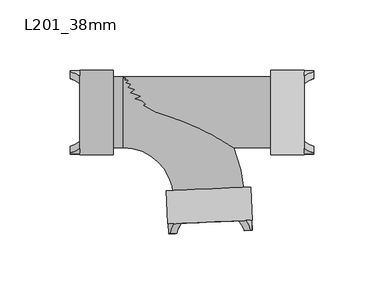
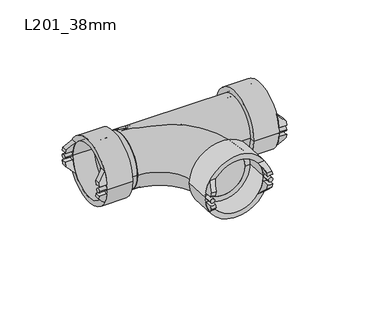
"""IFC4 building model written with IfcOpenShell, lengths in millimetres: pipe fitting geometry, Durapipe_PipeFitting_VulcatheneEnfusion_EqualSweepTee_L20 : L201_38mm."""

from ifc_helpers import new_model, si_unit, point, frame, frame_2d, origin, place, context, project, spatial, polyline, circle_curve, ellipse_curve, trimmed, segment, composite_curve, outline, extrude, source, transform, mapped, element, save
from ifc_brep_helpers import plane_surface, cylinder_surface, revolved_surface, advanced_brep


def l201_38mm_3360234d(model_context):
    return source(origin(), model_context, "Body", "SolidModel", [
        advanced_brep(
        [(-96.4947963, 25.0948649, -4.2367744), (-96.4947963, 29.6948649, -4.6062458), (-96.4947963, 28.9820444, -7.94), (-96.4947963, 24.1797208, -7.94), (-89.3947963, 26.0384811, -15.0), (-89.3947963, 29.6948649, -4.6062458), (-89.3947963, 25.0948649, -4.2367744), (-89.3947963, 20.5597301, -15.0)],
        [
            (0, 1, circle_curve(frame((-96.4947963, 27.75, 0.0), z_axis=(1.0, 0.0, 0.0), x_axis=(0.0, -1.0, 0.0)), 5.0)),
            (1, 2, circle_curve(frame((-96.4947963, 0.0, 0.0), z_axis=(-1.0, 0.0, 0.0), x_axis=(0.0, -1.0, 0.0)), 30.05)),
            (2, 3),
            (3, 0, circle_curve(frame((-96.4947963, 0.0, 0.0), z_axis=(1.0, 0.0, 0.0), x_axis=(0.0, -1.0, 0.0)), 25.45)),
            (4, 5, circle_curve(frame((-89.3947963, 0.0, 0.0), z_axis=(1.0, 0.0, 0.0), x_axis=(0.0, -1.0, 0.0)), 30.05)),
            (5, 6, circle_curve(frame((-89.3947963, 27.75, 0.0), z_axis=(-1.0, 0.0, 0.0), x_axis=(0.0, -1.0, 0.0)), 5.0)),
            (6, 7, circle_curve(frame((-89.3947963, 0.0, 0.0), z_axis=(-1.0, 0.0, 0.0), x_axis=(0.0, -1.0, 0.0)), 25.45)),
            (7, 4),
            (6, 0),
            (3, 7, ellipse_curve(frame((-104.4797821, 0.0, 0.0), z_axis=(-0.705106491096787, 0.0, -0.7091014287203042), x_axis=(0.7091014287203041, 0.0, -0.705106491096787)), 36.0938388, 25.45)),
            (4, 2, ellipse_curve(frame((-104.4797821, 0.0, 0.0), z_axis=(0.705106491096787, 0.0, 0.7091014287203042), x_axis=(-0.7091014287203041, 0.0, 0.705106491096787)), 42.617676, 30.05)),
            (1, 5),
        ],
        [
            plane_surface(frame((-96.4947963, 26.0384811, -15.0), z_axis=(-1.0, 0.0, 0.0), x_axis=(0.0, -1.0, 0.0))),
            plane_surface(frame((-89.3947963, 26.0384811, -15.0), z_axis=(1.0, 0.0, 0.0), x_axis=(0.0, 1.0, 0.0))),
            revolved_surface(polyline([(-78.88558943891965, -25.45, 0.0), (-130.07397476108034, -25.45, 0.0)]), (-89.3947963, 0.0, 0.0), (1.0, 0.0, 0.0)),
            cylinder_surface(frame((-89.3947963, 0.0, 0.0), z_axis=(-1.0, 0.0, 0.0), x_axis=(0.0, -1.0, 0.0)), 30.05),
            revolved_surface(polyline([(-96.4947963, 22.75, 0.0), (-89.3947963, 22.75, 0.0)]), (-89.3947963, 27.75, 0.0), (-1.0, 0.0, 0.0)),
            plane_surface(frame((-89.3947963, -30.05, -15.0), z_axis=(-0.705106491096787, 0.0, -0.7091014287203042), x_axis=(0.0, 1.0, 0.0))),
        ],
        [
            (0, [[1, 2, 3, 4]]),
            (1, [[5, 6, 7, 8]]),
            (2, [[-7, 9, -4, 10]]),
            (3, [[-5, 11, -2, 12]]),
            (4, [[-1, -9, -6, -12]]),
            (5, [[-3, -11, -8, -10]]),
        ],
    ),
        advanced_brep(
        [(-96.4947963, 29.6948649, 4.6062458), (-96.4947963, 25.0948649, 4.2367744), (-96.4947963, 24.1797208, 7.94), (-96.4947963, 28.9820444, 7.94), (-89.3947963, 29.6948649, 4.6062458), (-89.3947963, 26.0384811, 15.0), (-89.3947963, 20.5597301, 15.0), (-89.3947963, 25.0948649, 4.2367744)],
        [
            (0, 1, circle_curve(frame((-96.4947963, 27.75, 0.0), z_axis=(1.0, 0.0, 0.0), x_axis=(0.0, -1.0, 0.0)), 5.0)),
            (1, 2, circle_curve(frame((-96.4947963, 0.0, 0.0), z_axis=(1.0, 0.0, 0.0), x_axis=(0.0, -1.0, 0.0)), 25.45)),
            (2, 3),
            (3, 0, circle_curve(frame((-96.4947963, 0.0, 0.0), z_axis=(-1.0, 0.0, 0.0), x_axis=(0.0, -1.0, 0.0)), 30.05)),
            (4, 5, circle_curve(frame((-89.3947963, 0.0, 0.0), z_axis=(1.0, 0.0, 0.0), x_axis=(0.0, -1.0, 0.0)), 30.05)),
            (5, 6),
            (6, 7, circle_curve(frame((-89.3947963, 0.0, 0.0), z_axis=(-1.0, 0.0, 0.0), x_axis=(0.0, -1.0, 0.0)), 25.45)),
            (7, 4, circle_curve(frame((-89.3947963, 27.75, 0.0), z_axis=(-1.0, 0.0, 0.0), x_axis=(0.0, -1.0, 0.0)), 5.0)),
            (6, 2, ellipse_curve(frame((-104.4797821, 0.0, 0.0), z_axis=(-0.7051064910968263, 0.0, 0.7091014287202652), x_axis=(0.7091014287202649, 0.0, 0.7051064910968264)), 36.0938388, 25.45)),
            (1, 7),
            (4, 0),
            (3, 5, ellipse_curve(frame((-104.4797821, 0.0, 0.0), z_axis=(0.7051064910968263, 0.0, -0.7091014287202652), x_axis=(-0.7091014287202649, 0.0, -0.7051064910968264)), 42.617676, 30.05)),
        ],
        [
            plane_surface(frame((-96.4947963, 26.0384811, -15.0), z_axis=(-1.0, 0.0, 0.0), x_axis=(0.0, -1.0, 0.0))),
            plane_surface(frame((-89.3947963, 26.0384811, -15.0), z_axis=(1.0, 0.0, 0.0), x_axis=(0.0, 1.0, 0.0))),
            revolved_surface(polyline([(-78.88558943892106, -25.45, 0.0), (-130.07397476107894, -25.45, 0.0)]), (-89.3947963, 0.0, 0.0), (1.0, 0.0, 0.0)),
            cylinder_surface(frame((-89.3947963, 0.0, 0.0), z_axis=(-1.0, 0.0, 0.0), x_axis=(0.0, -1.0, 0.0)), 30.05),
            revolved_surface(polyline([(-96.4947963, 22.75, 0.0), (-89.3947963, 22.75, 0.0)]), (-89.3947963, 27.75, 0.0), (-1.0, 0.0, 0.0)),
            plane_surface(frame((-96.4947963, -30.05, 7.94), z_axis=(-0.7051064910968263, 0.0, 0.7091014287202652), x_axis=(0.0, 1.0, 0.0))),
        ],
        [
            (0, [[1, 2, 3, 4]]),
            (1, [[5, 6, 7, 8]]),
            (2, [[-7, 9, -2, 10]]),
            (3, [[-5, 11, -4, 12]]),
            (4, [[-1, -11, -8, -10]]),
            (5, [[-3, -9, -6, -12]]),
        ],
    ),
        advanced_brep(
        [(-96.4947963, -29.6948649, -4.6062458), (-96.4947963, -25.0948649, -4.2367744), (-96.4947963, -24.1797208, -7.94), (-96.4947963, -28.9820444, -7.94), (-89.3947963, -29.6948649, -4.6062458), (-89.3947963, -26.0384811, -15.0), (-89.3947963, -20.5597301, -15.0), (-89.3947963, -25.0948649, -4.2367744)],
        [
            (0, 1, circle_curve(frame((-96.4947963, -27.75, 0.0), z_axis=(1.0, 0.0, 0.0), x_axis=(0.0, -1.0, 0.0)), 5.0)),
            (1, 2, circle_curve(frame((-96.4947963, 0.0, 0.0), z_axis=(1.0, 0.0, 0.0), x_axis=(0.0, -1.0, 0.0)), 25.45)),
            (2, 3),
            (3, 0, circle_curve(frame((-96.4947963, 0.0, 0.0), z_axis=(-1.0, 0.0, 0.0), x_axis=(0.0, -1.0, 0.0)), 30.05)),
            (4, 5, circle_curve(frame((-89.3947963, 0.0, 0.0), z_axis=(1.0, 0.0, 0.0), x_axis=(0.0, -1.0, 0.0)), 30.05)),
            (5, 6),
            (6, 7, circle_curve(frame((-89.3947963, 0.0, 0.0), z_axis=(-1.0, 0.0, 0.0), x_axis=(0.0, -1.0, 0.0)), 25.45)),
            (7, 4, circle_curve(frame((-89.3947963, -27.75, 0.0), z_axis=(-1.0, 0.0, 0.0), x_axis=(0.0, -1.0, 0.0)), 5.0)),
            (6, 2, ellipse_curve(frame((-104.4797821, 0.0, 0.0), z_axis=(-0.705106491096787, 0.0, -0.7091014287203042), x_axis=(0.7091014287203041, 0.0, -0.705106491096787)), 36.0938388, 25.45)),
            (1, 7),
            (4, 0),
            (3, 5, ellipse_curve(frame((-104.4797821, 0.0, 0.0), z_axis=(0.705106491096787, 0.0, 0.7091014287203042), x_axis=(-0.7091014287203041, 0.0, 0.705106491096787)), 42.617676, 30.05)),
        ],
        [
            plane_surface(frame((-96.4947963, 26.0384811, -15.0), z_axis=(-1.0, 0.0, 0.0), x_axis=(0.0, -1.0, 0.0))),
            plane_surface(frame((-89.3947963, 26.0384811, -15.0), z_axis=(1.0, 0.0, 0.0), x_axis=(0.0, 1.0, 0.0))),
            revolved_surface(polyline([(-78.88558943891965, -25.45, 0.0), (-130.07397476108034, -25.45, 0.0)]), (-89.3947963, 0.0, 0.0), (1.0, 0.0, 0.0)),
            cylinder_surface(frame((-89.3947963, 0.0, 0.0), z_axis=(-1.0, 0.0, 0.0), x_axis=(0.0, -1.0, 0.0)), 30.05),
            revolved_surface(polyline([(-96.4947963, -32.75, 0.0), (-89.3947963, -32.75, 0.0)]), (-89.3947963, -27.75, 0.0), (-1.0, 0.0, 0.0)),
            plane_surface(frame((-89.3947963, -30.05, -15.0), z_axis=(-0.705106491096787, 0.0, -0.7091014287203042), x_axis=(0.0, 1.0, 0.0))),
        ],
        [
            (0, [[1, 2, 3, 4]]),
            (1, [[5, 6, 7, 8]]),
            (2, [[-7, 9, -2, 10]]),
            (3, [[-5, 11, -4, 12]]),
            (4, [[-1, -11, -8, -10]]),
            (5, [[-3, -9, -6, -12]]),
        ],
    ),
        advanced_brep(
        [(-96.4947963, -25.0948649, 4.2367744), (-96.4947963, -29.6948649, 4.6062458), (-96.4947963, -28.9820444, 7.94), (-96.4947963, -24.1797208, 7.94), (-89.3947963, -26.0384811, 15.0), (-89.3947963, -29.6948649, 4.6062458), (-89.3947963, -25.0948649, 4.2367744), (-89.3947963, -20.5597301, 15.0)],
        [
            (0, 1, circle_curve(frame((-96.4947963, -27.75, 0.0), z_axis=(1.0, 0.0, 0.0), x_axis=(0.0, -1.0, 0.0)), 5.0)),
            (1, 2, circle_curve(frame((-96.4947963, 0.0, 0.0), z_axis=(-1.0, 0.0, 0.0), x_axis=(0.0, -1.0, 0.0)), 30.05)),
            (2, 3),
            (3, 0, circle_curve(frame((-96.4947963, 0.0, 0.0), z_axis=(1.0, 0.0, 0.0), x_axis=(0.0, -1.0, 0.0)), 25.45)),
            (4, 5, circle_curve(frame((-89.3947963, 0.0, 0.0), z_axis=(1.0, 0.0, 0.0), x_axis=(0.0, -1.0, 0.0)), 30.05)),
            (5, 6, circle_curve(frame((-89.3947963, -27.75, 0.0), z_axis=(-1.0, 0.0, 0.0), x_axis=(0.0, -1.0, 0.0)), 5.0)),
            (6, 7, circle_curve(frame((-89.3947963, 0.0, 0.0), z_axis=(-1.0, 0.0, 0.0), x_axis=(0.0, -1.0, 0.0)), 25.45)),
            (7, 4),
            (6, 0),
            (3, 7, ellipse_curve(frame((-104.4797821, 0.0, 0.0), z_axis=(-0.7051064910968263, 0.0, 0.7091014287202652), x_axis=(0.7091014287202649, 0.0, 0.7051064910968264)), 36.0938388, 25.45)),
            (4, 2, ellipse_curve(frame((-104.4797821, 0.0, 0.0), z_axis=(0.7051064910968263, 0.0, -0.7091014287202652), x_axis=(-0.7091014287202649, 0.0, -0.7051064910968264)), 42.617676, 30.05)),
            (1, 5),
        ],
        [
            plane_surface(frame((-96.4947963, 26.0384811, -15.0), z_axis=(-1.0, 0.0, 0.0), x_axis=(0.0, -1.0, 0.0))),
            plane_surface(frame((-89.3947963, 26.0384811, -15.0), z_axis=(1.0, 0.0, 0.0), x_axis=(0.0, 1.0, 0.0))),
            revolved_surface(polyline([(-78.88558943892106, -25.45, 0.0), (-130.07397476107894, -25.45, 0.0)]), (-89.3947963, 0.0, 0.0), (1.0, 0.0, 0.0)),
            cylinder_surface(frame((-89.3947963, 0.0, 0.0), z_axis=(-1.0, 0.0, 0.0), x_axis=(0.0, -1.0, 0.0)), 30.05),
            revolved_surface(polyline([(-96.4947963, -32.75, 0.0), (-89.3947963, -32.75, 0.0)]), (-89.3947963, -27.75, 0.0), (-1.0, 0.0, 0.0)),
            plane_surface(frame((-96.4947963, -30.05, 7.94), z_axis=(-0.7051064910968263, 0.0, 0.7091014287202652), x_axis=(0.0, 1.0, 0.0))),
        ],
        [
            (0, [[1, 2, 3, 4]]),
            (1, [[5, 6, 7, 8]]),
            (2, [[-7, 9, -4, 10]]),
            (3, [[-5, 11, -2, 12]]),
            (4, [[-1, -9, -6, -12]]),
            (5, [[-3, -11, -8, -10]]),
        ],
    ),
        extrude(outline(composite_curve([segment(trimmed(circle_curve(frame_2d((27.75, 0.0)), 2.0), [point((29.75, 0.0))], [point((25.75, 0.0))], False, "CARTESIAN"), True, "CONTINUOUS"), segment(trimmed(circle_curve(frame_2d((27.75, 0.0)), 2.0), [point((25.75, 0.0))], [point((29.75, 0.0))], False, "CARTESIAN"), True, "CONTINUOUS")], self_intersect=False)), frame((-96.4947963, 0.0, 0.0), z_axis=(1.0, 0.0, 0.0), x_axis=(0.0, 1.0, 0.0)), (0.0, 0.0, 1.0), 7.1),
        extrude(outline(composite_curve([segment(trimmed(circle_curve(frame_2d((-27.75, 0.0)), 2.0), [point((-25.75, 0.0))], [point((-29.75, 0.0))], False, "CARTESIAN"), True, "CONTINUOUS"), segment(trimmed(circle_curve(frame_2d((-27.75, 0.0)), 2.0), [point((-29.75, 0.0))], [point((-25.75, 0.0))], False, "CARTESIAN"), True, "CONTINUOUS")], self_intersect=False)), frame((-96.4947963, 0.0, 0.0), z_axis=(1.0, 0.0, 0.0), x_axis=(0.0, 1.0, 0.0)), (0.0, 0.0, 1.0), 7.1),
        advanced_brep(
        [(-69.3947963, 20.65, 0.0), (-69.3947963, -20.65, 0.0), (-69.3947963, -25.3, 0.0), (-69.3947963, 25.3, 0.0), (-65.6947963, 20.65, 0.0), (-65.6947963, -20.65, 0.0), (-65.6947963, 30.2, 0.0), (-65.6947963, -30.2, 0.0), (-89.3947963, 30.2, 0.0), (-89.3947963, -30.2, 0.0), (-89.3947963, 25.3, 0.0), (-89.3947963, -25.3, 0.0)],
        [
            (0, 1, circle_curve(frame((-69.3947963, 0.0, 0.0), z_axis=(1.0, 0.0, 0.0), x_axis=(0.0, -1.0, 0.0)), 20.65)),
            (1, 2),
            (2, 3, circle_curve(frame((-69.3947963, 0.0, 0.0), z_axis=(-1.0, 0.0, 0.0), x_axis=(0.0, -1.0, 0.0)), 25.3)),
            (3, 0),
            (1, 0, circle_curve(frame((-69.3947963, 0.0, 0.0), z_axis=(1.0, 0.0, 0.0), x_axis=(0.0, -1.0, 0.0)), 20.65)),
            (3, 2, circle_curve(frame((-69.3947963, 0.0, 0.0), z_axis=(-1.0, 0.0, 0.0), x_axis=(0.0, -1.0, 0.0)), 25.3)),
            (4, 5, circle_curve(frame((-65.6947963, 0.0, 0.0), z_axis=(1.0, 0.0, 0.0), x_axis=(0.0, -1.0, 0.0)), 20.65)),
            (5, 1),
            (0, 4),
            (5, 4, circle_curve(frame((-65.6947963, 0.0, 0.0), z_axis=(1.0, 0.0, 0.0), x_axis=(0.0, -1.0, 0.0)), 20.65)),
            (6, 7, circle_curve(frame((-65.6947963, 0.0, 0.0), z_axis=(1.0, 0.0, 0.0), x_axis=(0.0, -1.0, 0.0)), 30.2)),
            (7, 5),
            (4, 6),
            (7, 6, circle_curve(frame((-65.6947963, 0.0, 0.0), z_axis=(1.0, 0.0, 0.0), x_axis=(0.0, -1.0, 0.0)), 30.2)),
            (8, 9, circle_curve(frame((-89.3947963, 0.0, 0.0), z_axis=(1.0, 0.0, 0.0), x_axis=(0.0, -1.0, 0.0)), 30.2)),
            (9, 7),
            (6, 8),
            (9, 8, circle_curve(frame((-89.3947963, 0.0, 0.0), z_axis=(1.0, 0.0, 0.0), x_axis=(0.0, -1.0, 0.0)), 30.2)),
            (10, 11, circle_curve(frame((-89.3947963, 0.0, 0.0), z_axis=(1.0, 0.0, 0.0), x_axis=(0.0, -1.0, 0.0)), 25.3)),
            (11, 9),
            (8, 10),
            (11, 10, circle_curve(frame((-89.3947963, 0.0, 0.0), z_axis=(1.0, 0.0, 0.0), x_axis=(0.0, -1.0, 0.0)), 25.3)),
            (2, 11),
            (10, 3),
        ],
        [
            plane_surface(frame((-69.3947963, 0.0, 0.0), z_axis=(-1.0, 0.0, 0.0), x_axis=(0.0, -1.0, 0.0))),
            revolved_surface(polyline([(-69.39479630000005, -20.65, 0.0), (-65.69479629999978, -20.65, 0.0)]), (-2603.3774203, 0.0, 0.0), (-1.0, 0.0, 0.0)),
            plane_surface(frame((-65.6947963, 0.0, 0.0), z_axis=(1.0, 0.0, 0.0), x_axis=(0.0, -1.0, 0.0))),
            cylinder_surface(frame((-2603.3774203, 0.0, 0.0), z_axis=(-1.0, 0.0, 0.0), x_axis=(0.0, -1.0, 0.0)), 30.2),
            plane_surface(frame((-89.3947963, 0.0, 0.0), z_axis=(-1.0, 0.0, 0.0), x_axis=(0.0, -1.0, 0.0))),
            revolved_surface(polyline([(-89.39479630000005, -25.3, 0.0), (-69.39479630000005, -25.3, 0.0)]), (-2603.3774203, 0.0, 0.0), (-1.0, 0.0, 0.0)),
        ],
        [
            (0, [[1, 2, 3, 4]]),
            (0, [[5, -4, 6, -2]]),
            (1, [[7, 8, -1, 9]]),
            (1, [[10, -9, -5, -8]]),
            (2, [[11, 12, -7, 13]]),
            (2, [[14, -13, -10, -12]]),
            (3, [[15, 16, -11, 17]]),
            (3, [[18, -17, -14, -16]]),
            (4, [[19, 20, -15, 21]]),
            (4, [[22, -21, -18, -20]]),
            (5, [[-3, 23, -19, 24]]),
            (5, [[-6, -24, -22, -23]]),
        ],
    ),
        advanced_brep(
        [(77.6618128, -25.0948649, -4.2367744), (77.6618128, -29.6948649, -4.6062458), (77.6618128, -28.9820444, -7.94), (77.6618128, -24.1797208, -7.94), (70.5618128, -26.0384811, -15.0), (70.5618128, -29.6948649, -4.6062458), (70.5618128, -25.0948649, -4.2367744), (70.5618128, -20.5597301, -15.0)],
        [
            (0, 1, circle_curve(frame((77.6618128, -27.75, 0.0), z_axis=(-1.0, 0.0, 0.0), x_axis=(0.0, 1.0, 0.0)), 5.0)),
            (1, 2, circle_curve(frame((77.6618128, 0.0, 0.0), z_axis=(1.0, 0.0, 0.0), x_axis=(0.0, 1.0, 0.0)), 30.05)),
            (2, 3),
            (3, 0, circle_curve(frame((77.6618128, 0.0, 0.0), z_axis=(-1.0, 0.0, 0.0), x_axis=(0.0, 1.0, 0.0)), 25.45)),
            (4, 5, circle_curve(frame((70.5618128, 0.0, 0.0), z_axis=(-1.0, 0.0, 0.0), x_axis=(0.0, 1.0, 0.0)), 30.05)),
            (5, 6, circle_curve(frame((70.5618128, -27.75, 0.0), z_axis=(1.0, 0.0, 0.0), x_axis=(0.0, 1.0, 0.0)), 5.0)),
            (6, 7, circle_curve(frame((70.5618128, 0.0, 0.0), z_axis=(1.0, 0.0, 0.0), x_axis=(0.0, 1.0, 0.0)), 25.45)),
            (7, 4),
            (6, 0),
            (3, 7, ellipse_curve(frame((85.6467986, 0.0, 0.0), z_axis=(0.705106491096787, 0.0, -0.7091014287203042), x_axis=(-0.7091014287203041, 0.0, -0.705106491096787)), 36.0938388, 25.45)),
            (4, 2, ellipse_curve(frame((85.6467986, 0.0, 0.0), z_axis=(-0.705106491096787, 0.0, 0.7091014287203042), x_axis=(0.7091014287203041, 0.0, 0.705106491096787)), 42.617676, 30.05)),
            (1, 5),
        ],
        [
            plane_surface(frame((77.6618128, -26.0384811, -15.0), z_axis=(1.0, 0.0, 0.0), x_axis=(0.0, 1.0, 0.0))),
            plane_surface(frame((70.5618128, -26.0384811, -15.0), z_axis=(-1.0, 0.0, 0.0), x_axis=(0.0, -1.0, 0.0))),
            revolved_surface(polyline([(60.05260593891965, 25.45, 0.0), (111.24099126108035, 25.45, 0.0)]), (70.5618128, 0.0, 0.0), (-1.0, 0.0, 0.0)),
            cylinder_surface(frame((70.5618128, 0.0, 0.0), z_axis=(1.0, 0.0, 0.0), x_axis=(0.0, 1.0, 0.0)), 30.05),
            revolved_surface(polyline([(77.6618128, -22.75, 0.0), (70.5618128, -22.75, 0.0)]), (70.5618128, -27.75, 0.0), (1.0, 0.0, 0.0)),
            plane_surface(frame((70.5618128, 30.05, -15.0), z_axis=(0.705106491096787, 0.0, -0.7091014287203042), x_axis=(0.0, -1.0, 0.0))),
        ],
        [
            (0, [[1, 2, 3, 4]]),
            (1, [[5, 6, 7, 8]]),
            (2, [[-7, 9, -4, 10]]),
            (3, [[-5, 11, -2, 12]]),
            (4, [[-1, -9, -6, -12]]),
            (5, [[-3, -11, -8, -10]]),
        ],
    ),
        advanced_brep(
        [(77.6618128, -29.6948649, 4.6062458), (77.6618128, -25.0948649, 4.2367744), (77.6618128, -24.1797208, 7.94), (77.6618128, -28.9820444, 7.94), (70.5618128, -29.6948649, 4.6062458), (70.5618128, -26.0384811, 15.0), (70.5618128, -20.5597301, 15.0), (70.5618128, -25.0948649, 4.2367744)],
        [
            (0, 1, circle_curve(frame((77.6618128, -27.75, 0.0), z_axis=(-1.0, 0.0, 0.0), x_axis=(0.0, 1.0, 0.0)), 5.0)),
            (1, 2, circle_curve(frame((77.6618128, 0.0, 0.0), z_axis=(-1.0, 0.0, 0.0), x_axis=(0.0, 1.0, 0.0)), 25.45)),
            (2, 3),
            (3, 0, circle_curve(frame((77.6618128, 0.0, 0.0), z_axis=(1.0, 0.0, 0.0), x_axis=(0.0, 1.0, 0.0)), 30.05)),
            (4, 5, circle_curve(frame((70.5618128, 0.0, 0.0), z_axis=(-1.0, 0.0, 0.0), x_axis=(0.0, 1.0, 0.0)), 30.05)),
            (5, 6),
            (6, 7, circle_curve(frame((70.5618128, 0.0, 0.0), z_axis=(1.0, 0.0, 0.0), x_axis=(0.0, 1.0, 0.0)), 25.45)),
            (7, 4, circle_curve(frame((70.5618128, -27.75, 0.0), z_axis=(1.0, 0.0, 0.0), x_axis=(0.0, 1.0, 0.0)), 5.0)),
            (6, 2, ellipse_curve(frame((85.6467986, 0.0, 0.0), z_axis=(0.7051064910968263, 0.0, 0.7091014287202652), x_axis=(-0.7091014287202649, 0.0, 0.7051064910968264)), 36.0938388, 25.45)),
            (1, 7),
            (4, 0),
            (3, 5, ellipse_curve(frame((85.6467986, 0.0, 0.0), z_axis=(-0.7051064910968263, 0.0, -0.7091014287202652), x_axis=(0.7091014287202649, 0.0, -0.7051064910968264)), 42.617676, 30.05)),
        ],
        [
            plane_surface(frame((77.6618128, -26.0384811, -15.0), z_axis=(1.0, 0.0, 0.0), x_axis=(0.0, 1.0, 0.0))),
            plane_surface(frame((70.5618128, -26.0384811, -15.0), z_axis=(-1.0, 0.0, 0.0), x_axis=(0.0, -1.0, 0.0))),
            revolved_surface(polyline([(60.05260593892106, 25.45, 0.0), (111.24099126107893, 25.45, 0.0)]), (70.5618128, 0.0, 0.0), (-1.0, 0.0, 0.0)),
            cylinder_surface(frame((70.5618128, 0.0, 0.0), z_axis=(1.0, 0.0, 0.0), x_axis=(0.0, 1.0, 0.0)), 30.05),
            revolved_surface(polyline([(77.6618128, -22.75, 0.0), (70.5618128, -22.75, 0.0)]), (70.5618128, -27.75, 0.0), (1.0, 0.0, 0.0)),
            plane_surface(frame((77.6618128, 30.05, 7.94), z_axis=(0.7051064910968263, 0.0, 0.7091014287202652), x_axis=(0.0, -1.0, 0.0))),
        ],
        [
            (0, [[1, 2, 3, 4]]),
            (1, [[5, 6, 7, 8]]),
            (2, [[-7, 9, -2, 10]]),
            (3, [[-5, 11, -4, 12]]),
            (4, [[-1, -11, -8, -10]]),
            (5, [[-3, -9, -6, -12]]),
        ],
    ),
        advanced_brep(
        [(77.6618128, 29.6948649, -4.6062458), (77.6618128, 25.0948649, -4.2367744), (77.6618128, 24.1797208, -7.94), (77.6618128, 28.9820444, -7.94), (70.5618128, 29.6948649, -4.6062458), (70.5618128, 26.0384811, -15.0), (70.5618128, 20.5597301, -15.0), (70.5618128, 25.0948649, -4.2367744)],
        [
            (0, 1, circle_curve(frame((77.6618128, 27.75, 0.0), z_axis=(-1.0, 0.0, 0.0), x_axis=(0.0, 1.0, 0.0)), 5.0)),
            (1, 2, circle_curve(frame((77.6618128, 0.0, 0.0), z_axis=(-1.0, 0.0, 0.0), x_axis=(0.0, 1.0, 0.0)), 25.45)),
            (2, 3),
            (3, 0, circle_curve(frame((77.6618128, 0.0, 0.0), z_axis=(1.0, 0.0, 0.0), x_axis=(0.0, 1.0, 0.0)), 30.05)),
            (4, 5, circle_curve(frame((70.5618128, 0.0, 0.0), z_axis=(-1.0, 0.0, 0.0), x_axis=(0.0, 1.0, 0.0)), 30.05)),
            (5, 6),
            (6, 7, circle_curve(frame((70.5618128, 0.0, 0.0), z_axis=(1.0, 0.0, 0.0), x_axis=(0.0, 1.0, 0.0)), 25.45)),
            (7, 4, circle_curve(frame((70.5618128, 27.75, 0.0), z_axis=(1.0, 0.0, 0.0), x_axis=(0.0, 1.0, 0.0)), 5.0)),
            (6, 2, ellipse_curve(frame((85.6467986, 0.0, 0.0), z_axis=(0.705106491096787, 0.0, -0.7091014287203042), x_axis=(-0.7091014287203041, 0.0, -0.705106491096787)), 36.0938388, 25.45)),
            (1, 7),
            (4, 0),
            (3, 5, ellipse_curve(frame((85.6467986, 0.0, 0.0), z_axis=(-0.705106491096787, 0.0, 0.7091014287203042), x_axis=(0.7091014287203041, 0.0, 0.705106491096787)), 42.617676, 30.05)),
        ],
        [
            plane_surface(frame((77.6618128, -26.0384811, -15.0), z_axis=(1.0, 0.0, 0.0), x_axis=(0.0, 1.0, 0.0))),
            plane_surface(frame((70.5618128, -26.0384811, -15.0), z_axis=(-1.0, 0.0, 0.0), x_axis=(0.0, -1.0, 0.0))),
            revolved_surface(polyline([(60.05260593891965, 25.45, 0.0), (111.24099126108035, 25.45, 0.0)]), (70.5618128, 0.0, 0.0), (-1.0, 0.0, 0.0)),
            cylinder_surface(frame((70.5618128, 0.0, 0.0), z_axis=(1.0, 0.0, 0.0), x_axis=(0.0, 1.0, 0.0)), 30.05),
            revolved_surface(polyline([(77.6618128, 32.75, 0.0), (70.5618128, 32.75, 0.0)]), (70.5618128, 27.75, 0.0), (1.0, 0.0, 0.0)),
            plane_surface(frame((70.5618128, 30.05, -15.0), z_axis=(0.705106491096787, 0.0, -0.7091014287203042), x_axis=(0.0, -1.0, 0.0))),
        ],
        [
            (0, [[1, 2, 3, 4]]),
            (1, [[5, 6, 7, 8]]),
            (2, [[-7, 9, -2, 10]]),
            (3, [[-5, 11, -4, 12]]),
            (4, [[-1, -11, -8, -10]]),
            (5, [[-3, -9, -6, -12]]),
        ],
    ),
        advanced_brep(
        [(77.6618128, 25.0948649, 4.2367744), (77.6618128, 29.6948649, 4.6062458), (77.6618128, 28.9820444, 7.94), (77.6618128, 24.1797208, 7.94), (70.5618128, 26.0384811, 15.0), (70.5618128, 29.6948649, 4.6062458), (70.5618128, 25.0948649, 4.2367744), (70.5618128, 20.5597301, 15.0)],
        [
            (0, 1, circle_curve(frame((77.6618128, 27.75, 0.0), z_axis=(-1.0, 0.0, 0.0), x_axis=(0.0, 1.0, 0.0)), 5.0)),
            (1, 2, circle_curve(frame((77.6618128, 0.0, 0.0), z_axis=(1.0, 0.0, 0.0), x_axis=(0.0, 1.0, 0.0)), 30.05)),
            (2, 3),
            (3, 0, circle_curve(frame((77.6618128, 0.0, 0.0), z_axis=(-1.0, 0.0, 0.0), x_axis=(0.0, 1.0, 0.0)), 25.45)),
            (4, 5, circle_curve(frame((70.5618128, 0.0, 0.0), z_axis=(-1.0, 0.0, 0.0), x_axis=(0.0, 1.0, 0.0)), 30.05)),
            (5, 6, circle_curve(frame((70.5618128, 27.75, 0.0), z_axis=(1.0, 0.0, 0.0), x_axis=(0.0, 1.0, 0.0)), 5.0)),
            (6, 7, circle_curve(frame((70.5618128, 0.0, 0.0), z_axis=(1.0, 0.0, 0.0), x_axis=(0.0, 1.0, 0.0)), 25.45)),
            (7, 4),
            (6, 0),
            (3, 7, ellipse_curve(frame((85.6467986, 0.0, 0.0), z_axis=(0.7051064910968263, 0.0, 0.7091014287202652), x_axis=(-0.7091014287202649, 0.0, 0.7051064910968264)), 36.0938388, 25.45)),
            (4, 2, ellipse_curve(frame((85.6467986, 0.0, 0.0), z_axis=(-0.7051064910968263, 0.0, -0.7091014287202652), x_axis=(0.7091014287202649, 0.0, -0.7051064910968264)), 42.617676, 30.05)),
            (1, 5),
        ],
        [
            plane_surface(frame((77.6618128, -26.0384811, -15.0), z_axis=(1.0, 0.0, 0.0), x_axis=(0.0, 1.0, 0.0))),
            plane_surface(frame((70.5618128, -26.0384811, -15.0), z_axis=(-1.0, 0.0, 0.0), x_axis=(0.0, -1.0, 0.0))),
            revolved_surface(polyline([(60.05260593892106, 25.45, 0.0), (111.24099126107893, 25.45, 0.0)]), (70.5618128, 0.0, 0.0), (-1.0, 0.0, 0.0)),
            cylinder_surface(frame((70.5618128, 0.0, 0.0), z_axis=(1.0, 0.0, 0.0), x_axis=(0.0, 1.0, 0.0)), 30.05),
            revolved_surface(polyline([(77.6618128, 32.75, 0.0), (70.5618128, 32.75, 0.0)]), (70.5618128, 27.75, 0.0), (1.0, 0.0, 0.0)),
            plane_surface(frame((77.6618128, 30.05, 7.94), z_axis=(0.7051064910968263, 0.0, 0.7091014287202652), x_axis=(0.0, -1.0, 0.0))),
        ],
        [
            (0, [[1, 2, 3, 4]]),
            (1, [[5, 6, 7, 8]]),
            (2, [[-7, 9, -4, 10]]),
            (3, [[-5, 11, -2, 12]]),
            (4, [[-1, -9, -6, -12]]),
            (5, [[-3, -11, -8, -10]]),
        ],
    ),
        extrude(outline(composite_curve([segment(trimmed(circle_curve(frame_2d((-27.75, 0.0)), 2.0), [point((-29.75, 0.0))], [point((-25.75, 0.0))], False, "CARTESIAN"), True, "CONTINUOUS"), segment(trimmed(circle_curve(frame_2d((-27.75, 0.0)), 2.0), [point((-25.75, 0.0))], [point((-29.75, 0.0))], False, "CARTESIAN"), True, "CONTINUOUS")], self_intersect=False)), frame((70.5618128, 0.0, 0.0), z_axis=(1.0, 0.0, 0.0), x_axis=(0.0, 1.0, 0.0)), (0.0, 0.0, 1.0), 7.1),
        extrude(outline(composite_curve([segment(trimmed(circle_curve(frame_2d((27.75, 0.0)), 2.0), [point((25.75, 0.0))], [point((29.75, 0.0))], False, "CARTESIAN"), True, "CONTINUOUS"), segment(trimmed(circle_curve(frame_2d((27.75, 0.0)), 2.0), [point((29.75, 0.0))], [point((25.75, 0.0))], False, "CARTESIAN"), True, "CONTINUOUS")], self_intersect=False)), frame((70.5618128, 0.0, 0.0), z_axis=(1.0, 0.0, 0.0), x_axis=(0.0, 1.0, 0.0)), (0.0, 0.0, 1.0), 7.1),
        advanced_brep(
        [(50.5618128, -20.65, 0.0), (50.5618128, 20.65, 0.0), (50.5618128, 25.3, 0.0), (50.5618128, -25.3, 0.0), (46.8618128, -20.65, 0.0), (46.8618128, 20.65, 0.0), (46.8618128, -30.2, 0.0), (46.8618128, 30.2, 0.0), (70.5618128, -30.2, 0.0), (70.5618128, 30.2, 0.0), (70.5618128, -25.3, 0.0), (70.5618128, 25.3, 0.0)],
        [
            (0, 1, circle_curve(frame((50.5618128, 0.0, 0.0), z_axis=(-1.0, 0.0, 0.0), x_axis=(0.0, 1.0, 0.0)), 20.65)),
            (1, 2),
            (2, 3, circle_curve(frame((50.5618128, 0.0, 0.0), z_axis=(1.0, 0.0, 0.0), x_axis=(0.0, 1.0, 0.0)), 25.3)),
            (3, 0),
            (1, 0, circle_curve(frame((50.5618128, 0.0, 0.0), z_axis=(-1.0, 0.0, 0.0), x_axis=(0.0, 1.0, 0.0)), 20.65)),
            (3, 2, circle_curve(frame((50.5618128, 0.0, 0.0), z_axis=(1.0, 0.0, 0.0), x_axis=(0.0, 1.0, 0.0)), 25.3)),
            (4, 5, circle_curve(frame((46.8618128, 0.0, 0.0), z_axis=(-1.0, 0.0, 0.0), x_axis=(0.0, 1.0, 0.0)), 20.65)),
            (5, 1),
            (0, 4),
            (5, 4, circle_curve(frame((46.8618128, 0.0, 0.0), z_axis=(-1.0, 0.0, 0.0), x_axis=(0.0, 1.0, 0.0)), 20.65)),
            (6, 7, circle_curve(frame((46.8618128, 0.0, 0.0), z_axis=(-1.0, 0.0, 0.0), x_axis=(0.0, 1.0, 0.0)), 30.2)),
            (7, 5),
            (4, 6),
            (7, 6, circle_curve(frame((46.8618128, 0.0, 0.0), z_axis=(-1.0, 0.0, 0.0), x_axis=(0.0, 1.0, 0.0)), 30.2)),
            (8, 9, circle_curve(frame((70.5618128, 0.0, 0.0), z_axis=(-1.0, 0.0, 0.0), x_axis=(0.0, 1.0, 0.0)), 30.2)),
            (9, 7),
            (6, 8),
            (9, 8, circle_curve(frame((70.5618128, 0.0, 0.0), z_axis=(-1.0, 0.0, 0.0), x_axis=(0.0, 1.0, 0.0)), 30.2)),
            (10, 11, circle_curve(frame((70.5618128, 0.0, 0.0), z_axis=(-1.0, 0.0, 0.0), x_axis=(0.0, 1.0, 0.0)), 25.3)),
            (11, 9),
            (8, 10),
            (11, 10, circle_curve(frame((70.5618128, 0.0, 0.0), z_axis=(-1.0, 0.0, 0.0), x_axis=(0.0, 1.0, 0.0)), 25.3)),
            (2, 11),
            (10, 3),
        ],
        [
            plane_surface(frame((50.5618128, 0.0, 0.0), z_axis=(1.0, 0.0, 0.0), x_axis=(0.0, 1.0, 0.0))),
            revolved_surface(polyline([(50.5618128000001, 20.65, 0.0), (46.861812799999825, 20.65, 0.0)]), (2584.5444369, 0.0, 0.0), (1.0, 0.0, 0.0)),
            plane_surface(frame((46.8618128, 0.0, 0.0), z_axis=(-1.0, 0.0, 0.0), x_axis=(0.0, 1.0, 0.0))),
            cylinder_surface(frame((2584.5444369, 0.0, 0.0), z_axis=(1.0, 0.0, 0.0), x_axis=(0.0, 1.0, 0.0)), 30.2),
            plane_surface(frame((70.5618128, 0.0, 0.0), z_axis=(1.0, 0.0, 0.0), x_axis=(0.0, 1.0, 0.0))),
            revolved_surface(polyline([(70.5618128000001, 25.3, 0.0), (50.5618128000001, 25.3, 0.0)]), (2584.5444369, 0.0, 0.0), (1.0, 0.0, 0.0)),
        ],
        [
            (0, [[1, 2, 3, 4]]),
            (0, [[5, -4, 6, -2]]),
            (1, [[7, 8, -1, 9]]),
            (1, [[10, -9, -5, -8]]),
            (2, [[11, 12, -7, 13]]),
            (2, [[14, -13, -10, -12]]),
            (3, [[15, 16, -11, 17]]),
            (3, [[18, -17, -14, -16]]),
            (4, [[19, 20, -15, 21]]),
            (4, [[22, -21, -18, -20]]),
            (5, [[-3, 23, -19, 24]]),
            (5, [[-6, -24, -22, -23]]),
        ],
    ),
        advanced_brep(
        [(28.8002108, -84.3188015, 4.2367744), (33.3958326, -84.1181524, 4.6062458), (32.6836906, -84.1492452, 7.94), (27.8859377, -84.3587196, 7.94), (29.4332313, -77.1843992, 15.0), (33.0861349, -77.02491, 4.6062458), (28.4905131, -77.2255592, 4.2367744), (23.9596947, -77.423379, 15.0)],
        [
            (0, 1, circle_curve(frame((31.4528188, -84.2029862, 0.0), z_axis=(-0.04361938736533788, 0.9990482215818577, 0.0), x_axis=(-0.9990482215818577, -0.04361938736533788, 0.0)), 5.0)),
            (1, 2, circle_curve(frame((3.7292306, -85.4134242, 0.0), z_axis=(0.04361938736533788, -0.9990482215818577, 0.0), x_axis=(-0.9990482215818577, -0.04361938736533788, 0.0)), 30.05)),
            (2, 3),
            (3, 0, circle_curve(frame((3.7292306, -85.4134242, 0.0), z_axis=(-0.04361938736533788, 0.9990482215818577, 0.0), x_axis=(-0.9990482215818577, -0.04361938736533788, 0.0)), 25.45)),
            (4, 5, circle_curve(frame((3.419533, -78.3201818, 0.0), z_axis=(-0.04361938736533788, 0.9990482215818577, 0.0), x_axis=(-0.9990482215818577, -0.04361938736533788, 0.0)), 30.05)),
            (5, 6, circle_curve(frame((31.1431211, -77.1097438, 0.0), z_axis=(0.04361938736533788, -0.9990482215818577, 0.0), x_axis=(-0.9990482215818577, -0.04361938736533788, 0.0)), 5.0)),
            (6, 7, circle_curve(frame((3.419533, -78.3201818, 0.0), z_axis=(0.04361938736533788, -0.9990482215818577, 0.0), x_axis=(-0.9990482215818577, -0.04361938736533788, 0.0)), 25.45)),
            (7, 4),
            (6, 0),
            (3, 7, ellipse_curve(frame((4.0775308, -93.3908101, 0.0), z_axis=(0.03075631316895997, -0.7044353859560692, 0.7091014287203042), x_axis=(-0.030930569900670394, 0.708426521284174, 0.705106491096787)), 36.0938388, 25.45)),
            (4, 2, ellipse_curve(frame((4.0775308, -93.3908101, 0.0), z_axis=(-0.03075631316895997, 0.7044353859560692, -0.7091014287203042), x_axis=(0.030930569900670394, -0.708426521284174, -0.705106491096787)), 42.617676, 30.05)),
            (1, 5),
        ],
        [
            plane_surface(frame((29.7429289, -84.2776416, 15.0), z_axis=(0.04361938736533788, -0.9990482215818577, 0.0), x_axis=(-0.9990482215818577, -0.04361938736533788, 0.0))),
            plane_surface(frame((29.4332313, -77.1843992, 15.0), z_axis=(-0.04361938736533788, 0.9990482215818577, 0.0), x_axis=(0.9990482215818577, 0.04361938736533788, 0.0))),
            revolved_surface(polyline([(-22.464649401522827, -68.93109084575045, 0.0), (-20.231843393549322, -120.07075616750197, 0.0)]), (3.419533, -78.3201818, 0.0), (-0.04361938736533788, 0.9990482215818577, 0.0)),
            cylinder_surface(frame((3.419533, -78.3201818, 0.0), z_axis=(0.04361938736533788, -0.9990482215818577, 0.0), x_axis=(-0.9990482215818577, -0.04361938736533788, 0.0)), 30.05),
            revolved_surface(polyline([(26.457577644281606, -84.42108315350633, 0.0), (26.147879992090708, -77.32784073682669, 0.0)]), (31.1431211, -77.1097438, 0.0), (0.04361938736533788, -0.9990482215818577, 0.0)),
            plane_surface(frame((-26.6018661, -79.6309444, 15.0), z_axis=(0.03075631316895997, -0.7044353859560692, 0.7091014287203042), x_axis=(0.9990482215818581, 0.04361938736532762, 0.0))),
        ],
        [
            (0, [[1, 2, 3, 4]]),
            (1, [[5, 6, 7, 8]]),
            (2, [[-7, 9, -4, 10]]),
            (3, [[-5, 11, -2, 12]]),
            (4, [[-1, -9, -6, -12]]),
            (5, [[-3, -11, -8, -10]]),
        ],
    ),
        advanced_brep(
        [(33.3958326, -84.1181524, -4.6062458), (28.8002108, -84.3188015, -4.2367744), (27.8859377, -84.3587196, -7.94), (32.6836906, -84.1492452, -7.94), (33.0861349, -77.02491, -4.6062458), (29.4332313, -77.1843992, -15.0), (23.9596947, -77.423379, -15.0), (28.4905131, -77.2255592, -4.2367744)],
        [
            (0, 1, circle_curve(frame((31.4528188, -84.2029862, 0.0), z_axis=(-0.04361938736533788, 0.9990482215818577, 0.0), x_axis=(-0.9990482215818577, -0.04361938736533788, 0.0)), 5.0)),
            (1, 2, circle_curve(frame((3.7292306, -85.4134242, 0.0), z_axis=(-0.04361938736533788, 0.9990482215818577, 0.0), x_axis=(-0.9990482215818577, -0.04361938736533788, 0.0)), 25.45)),
            (2, 3),
            (3, 0, circle_curve(frame((3.7292306, -85.4134242, 0.0), z_axis=(0.04361938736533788, -0.9990482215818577, 0.0), x_axis=(-0.9990482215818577, -0.04361938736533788, 0.0)), 30.05)),
            (4, 5, circle_curve(frame((3.419533, -78.3201818, 0.0), z_axis=(-0.04361938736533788, 0.9990482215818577, 0.0), x_axis=(-0.9990482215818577, -0.04361938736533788, 0.0)), 30.05)),
            (5, 6),
            (6, 7, circle_curve(frame((3.419533, -78.3201818, 0.0), z_axis=(0.04361938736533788, -0.9990482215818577, 0.0), x_axis=(-0.9990482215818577, -0.04361938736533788, 0.0)), 25.45)),
            (7, 4, circle_curve(frame((31.1431211, -77.1097438, 0.0), z_axis=(0.04361938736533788, -0.9990482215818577, 0.0), x_axis=(-0.9990482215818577, -0.04361938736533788, 0.0)), 5.0)),
            (6, 2, ellipse_curve(frame((4.0775308, -93.3908101, 0.0), z_axis=(0.030756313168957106, -0.7044353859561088, -0.7091014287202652), x_axis=(-0.030930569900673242, 0.7084265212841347, -0.7051064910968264)), 36.0938388, 25.45)),
            (1, 7),
            (4, 0),
            (3, 5, ellipse_curve(frame((4.0775308, -93.3908101, 0.0), z_axis=(-0.030756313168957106, 0.7044353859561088, 0.7091014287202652), x_axis=(0.030930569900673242, -0.7084265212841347, 0.7051064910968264)), 42.617676, 30.05)),
        ],
        [
            plane_surface(frame((29.7429289, -84.2776416, 15.0), z_axis=(0.04361938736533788, -0.9990482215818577, 0.0), x_axis=(-0.9990482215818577, -0.04361938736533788, 0.0))),
            plane_surface(frame((29.4332313, -77.1843992, 15.0), z_axis=(-0.04361938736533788, 0.9990482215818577, 0.0), x_axis=(0.9990482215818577, 0.04361938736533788, 0.0))),
            revolved_surface(polyline([(-22.464649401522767, -68.93109084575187, 0.0), (-20.231843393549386, -120.07075616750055, 0.0)]), (3.419533, -78.3201818, 0.0), (-0.04361938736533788, 0.9990482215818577, 0.0)),
            cylinder_surface(frame((3.419533, -78.3201818, 0.0), z_axis=(0.04361938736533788, -0.9990482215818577, 0.0), x_axis=(-0.9990482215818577, -0.04361938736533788, 0.0)), 30.05),
            revolved_surface(polyline([(26.457577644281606, -84.42108315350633, 0.0), (26.147879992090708, -77.32784073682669, 0.0)]), (31.1431211, -77.1097438, 0.0), (0.04361938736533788, -0.9990482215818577, 0.0)),
            plane_surface(frame((-26.2921684, -86.7241868, -7.94), z_axis=(0.030756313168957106, -0.7044353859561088, -0.7091014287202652), x_axis=(0.9990482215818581, 0.04361938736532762, 0.0))),
        ],
        [
            (0, [[1, 2, 3, 4]]),
            (1, [[5, 6, 7, 8]]),
            (2, [[-7, 9, -2, 10]]),
            (3, [[-5, 11, -4, 12]]),
            (4, [[-1, -11, -8, -10]]),
            (5, [[-3, -9, -6, -12]]),
        ],
    ),
        advanced_brep(
        [(-25.9373713, -86.708696, 4.6062458), (-21.3417495, -86.5080468, 4.2367744), (-20.4274765, -86.4681288, 7.94), (-25.2252293, -86.6776032, 7.94), (-26.2470689, -79.6154536, 4.6062458), (-22.5941653, -79.4559644, 15.0), (-17.1206288, -79.2169846, 15.0), (-21.6514471, -79.4148044, 4.2367744)],
        [
            (0, 1, circle_curve(frame((-23.9943575, -86.6238622, 0.0), z_axis=(-0.04361938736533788, 0.9990482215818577, 0.0), x_axis=(-0.9990482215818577, -0.04361938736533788, 0.0)), 5.0)),
            (1, 2, circle_curve(frame((3.7292306, -85.4134242, 0.0), z_axis=(-0.04361938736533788, 0.9990482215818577, 0.0), x_axis=(-0.9990482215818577, -0.04361938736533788, 0.0)), 25.45)),
            (2, 3),
            (3, 0, circle_curve(frame((3.7292306, -85.4134242, 0.0), z_axis=(0.04361938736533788, -0.9990482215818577, 0.0), x_axis=(-0.9990482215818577, -0.04361938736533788, 0.0)), 30.05)),
            (4, 5, circle_curve(frame((3.419533, -78.3201818, 0.0), z_axis=(-0.04361938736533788, 0.9990482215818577, 0.0), x_axis=(-0.9990482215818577, -0.04361938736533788, 0.0)), 30.05)),
            (5, 6),
            (6, 7, circle_curve(frame((3.419533, -78.3201818, 0.0), z_axis=(0.04361938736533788, -0.9990482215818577, 0.0), x_axis=(-0.9990482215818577, -0.04361938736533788, 0.0)), 25.45)),
            (7, 4, circle_curve(frame((-24.3040552, -79.5306198, 0.0), z_axis=(0.04361938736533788, -0.9990482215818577, 0.0), x_axis=(-0.9990482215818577, -0.04361938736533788, 0.0)), 5.0)),
            (6, 2, ellipse_curve(frame((4.0775308, -93.3908101, 0.0), z_axis=(0.03075631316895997, -0.7044353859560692, 0.7091014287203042), x_axis=(-0.030930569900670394, 0.708426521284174, 0.705106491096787)), 36.0938388, 25.45)),
            (1, 7),
            (4, 0),
            (3, 5, ellipse_curve(frame((4.0775308, -93.3908101, 0.0), z_axis=(-0.03075631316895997, 0.7044353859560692, -0.7091014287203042), x_axis=(0.030930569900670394, -0.708426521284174, -0.705106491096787)), 42.617676, 30.05)),
        ],
        [
            plane_surface(frame((29.7429289, -84.2776416, 15.0), z_axis=(0.04361938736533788, -0.9990482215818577, 0.0), x_axis=(-0.9990482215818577, -0.04361938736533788, 0.0))),
            plane_surface(frame((29.4332313, -77.1843992, 15.0), z_axis=(-0.04361938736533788, 0.9990482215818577, 0.0), x_axis=(0.9990482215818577, 0.04361938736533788, 0.0))),
            revolved_surface(polyline([(-22.464649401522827, -68.93109084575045, 0.0), (-20.231843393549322, -120.07075616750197, 0.0)]), (3.419533, -78.3201818, 0.0), (-0.04361938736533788, 0.9990482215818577, 0.0)),
            cylinder_surface(frame((3.419533, -78.3201818, 0.0), z_axis=(0.04361938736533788, -0.9990482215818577, 0.0), x_axis=(-0.9990482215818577, -0.04361938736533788, 0.0)), 30.05),
            revolved_surface(polyline([(-28.989598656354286, -86.84195913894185, 0.0), (-29.299296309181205, -79.74871670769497, 0.0)]), (-24.3040552, -79.5306198, 0.0), (0.04361938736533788, -0.9990482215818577, 0.0)),
            plane_surface(frame((-26.6018661, -79.6309444, 15.0), z_axis=(0.03075631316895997, -0.7044353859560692, 0.7091014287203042), x_axis=(0.9990482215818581, 0.04361938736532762, 0.0))),
        ],
        [
            (0, [[1, 2, 3, 4]]),
            (1, [[5, 6, 7, 8]]),
            (2, [[-7, 9, -2, 10]]),
            (3, [[-5, 11, -4, 12]]),
            (4, [[-1, -11, -8, -10]]),
            (5, [[-3, -9, -6, -12]]),
        ],
    ),
        advanced_brep(
        [(-21.3417495, -86.5080468, -4.2367744), (-25.9373713, -86.708696, -4.6062458), (-25.2252293, -86.6776032, -7.94), (-20.4274765, -86.4681288, -7.94), (-22.5941653, -79.4559644, -15.0), (-26.2470689, -79.6154536, -4.6062458), (-21.6514471, -79.4148044, -4.2367744), (-17.1206288, -79.2169846, -15.0)],
        [
            (0, 1, circle_curve(frame((-23.9943575, -86.6238622, 0.0), z_axis=(-0.04361938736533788, 0.9990482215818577, 0.0), x_axis=(-0.9990482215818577, -0.04361938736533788, 0.0)), 5.0)),
            (1, 2, circle_curve(frame((3.7292306, -85.4134242, 0.0), z_axis=(0.04361938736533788, -0.9990482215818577, 0.0), x_axis=(-0.9990482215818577, -0.04361938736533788, 0.0)), 30.05)),
            (2, 3),
            (3, 0, circle_curve(frame((3.7292306, -85.4134242, 0.0), z_axis=(-0.04361938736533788, 0.9990482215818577, 0.0), x_axis=(-0.9990482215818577, -0.04361938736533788, 0.0)), 25.45)),
            (4, 5, circle_curve(frame((3.419533, -78.3201818, 0.0), z_axis=(-0.04361938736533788, 0.9990482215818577, 0.0), x_axis=(-0.9990482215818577, -0.04361938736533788, 0.0)), 30.05)),
            (5, 6, circle_curve(frame((-24.3040552, -79.5306198, 0.0), z_axis=(0.04361938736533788, -0.9990482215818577, 0.0), x_axis=(-0.9990482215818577, -0.04361938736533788, 0.0)), 5.0)),
            (6, 7, circle_curve(frame((3.419533, -78.3201818, 0.0), z_axis=(0.04361938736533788, -0.9990482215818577, 0.0), x_axis=(-0.9990482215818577, -0.04361938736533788, 0.0)), 25.45)),
            (7, 4),
            (6, 0),
            (3, 7, ellipse_curve(frame((4.0775308, -93.3908101, 0.0), z_axis=(0.030756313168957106, -0.7044353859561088, -0.7091014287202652), x_axis=(-0.030930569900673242, 0.7084265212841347, -0.7051064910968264)), 36.0938388, 25.45)),
            (4, 2, ellipse_curve(frame((4.0775308, -93.3908101, 0.0), z_axis=(-0.030756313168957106, 0.7044353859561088, 0.7091014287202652), x_axis=(0.030930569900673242, -0.7084265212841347, 0.7051064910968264)), 42.617676, 30.05)),
            (1, 5),
        ],
        [
            plane_surface(frame((29.7429289, -84.2776416, 15.0), z_axis=(0.04361938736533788, -0.9990482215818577, 0.0), x_axis=(-0.9990482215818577, -0.04361938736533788, 0.0))),
            plane_surface(frame((29.4332313, -77.1843992, 15.0), z_axis=(-0.04361938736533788, 0.9990482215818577, 0.0), x_axis=(0.9990482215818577, 0.04361938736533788, 0.0))),
            revolved_surface(polyline([(-22.464649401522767, -68.93109084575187, 0.0), (-20.231843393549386, -120.07075616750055, 0.0)]), (3.419533, -78.3201818, 0.0), (-0.04361938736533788, 0.9990482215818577, 0.0)),
            cylinder_surface(frame((3.419533, -78.3201818, 0.0), z_axis=(0.04361938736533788, -0.9990482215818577, 0.0), x_axis=(-0.9990482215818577, -0.04361938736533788, 0.0)), 30.05),
            revolved_surface(polyline([(-28.989598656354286, -86.84195913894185, 0.0), (-29.299296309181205, -79.74871670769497, 0.0)]), (-24.3040552, -79.5306198, 0.0), (0.04361938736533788, -0.9990482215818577, 0.0)),
            plane_surface(frame((-26.2921684, -86.7241868, -7.94), z_axis=(0.030756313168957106, -0.7044353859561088, -0.7091014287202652), x_axis=(0.9990482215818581, 0.04361938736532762, 0.0))),
        ],
        [
            (0, [[1, 2, 3, 4]]),
            (1, [[5, 6, 7, 8]]),
            (2, [[-7, 9, -4, 10]]),
            (3, [[-5, 11, -2, 12]]),
            (4, [[-1, -9, -6, -12]]),
            (5, [[-3, -11, -8, -10]]),
        ],
    ),
        extrude(outline(composite_curve([segment(trimmed(circle_curve(frame_2d((0.0, -2.0000001)), 2.0), [point((0.0, -4.0))], [point((0.0, 0.0))], False, "CARTESIAN"), True, "CONTINUOUS"), segment(trimmed(circle_curve(frame_2d((0.0, -2.0000001)), 2.0), [point((0.0, 0.0))], [point((0.0, -4.0))], False, "CARTESIAN"), True, "CONTINUOUS")], self_intersect=False)), frame((29.4547223, -84.290225, 0.0), z_axis=(-0.04361938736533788, 0.9990482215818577, 0.0), x_axis=(0.0, 0.0, -1.0)), (0.0, 0.0, 1.0), 7.1),
        extrude(outline(composite_curve([segment(trimmed(circle_curve(frame_2d((0.0, 53.4999999)), 2.0), [point((0.0, 51.5))], [point((0.0, 55.5))], False, "CARTESIAN"), True, "CONTINUOUS"), segment(trimmed(circle_curve(frame_2d((0.0, 53.4999999)), 2.0), [point((0.0, 55.5))], [point((0.0, 51.5))], False, "CARTESIAN"), True, "CONTINUOUS")], self_intersect=False)), frame((29.4547223, -84.290225, 0.0), z_axis=(-0.04361938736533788, 0.9990482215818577, 0.0), x_axis=(0.0, 0.0, -1.0)), (0.0, 0.0, 1.0), 7.1),
        advanced_brep(
        [(23.177491, -57.438477, 0.0), (-18.0832005, -59.2399577, 0.0), (-22.7287748, -59.4427879, 0.0), (27.8230652, -57.2356469, 0.0), (23.0160993, -53.7419986, 0.0), (-18.2445923, -55.5434793, 0.0), (32.5570098, -53.3254335, 0.0), (-27.7855028, -55.9600444, 0.0), (33.5907893, -77.0028763, 0.0), (-26.7517233, -79.6374873, 0.0), (28.695453, -77.2166113, 0.0), (-21.856387, -79.4237523, 0.0)],
        [
            (0, 1, circle_curve(frame((2.5471452, -58.3392174, 0.0), z_axis=(-0.04361938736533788, 0.9990482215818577, 0.0), x_axis=(-0.9990482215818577, -0.04361938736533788, 0.0)), 20.65)),
            (1, 2),
            (2, 3, circle_curve(frame((2.5471452, -58.3392174, 0.0), z_axis=(0.04361938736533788, -0.9990482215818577, 0.0), x_axis=(-0.9990482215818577, -0.04361938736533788, 0.0)), 25.3)),
            (3, 0),
            (1, 0, circle_curve(frame((2.5471452, -58.3392174, 0.0), z_axis=(-0.04361938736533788, 0.9990482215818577, 0.0), x_axis=(-0.9990482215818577, -0.04361938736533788, 0.0)), 20.65)),
            (3, 2, circle_curve(frame((2.5471452, -58.3392174, 0.0), z_axis=(0.04361938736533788, -0.9990482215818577, 0.0), x_axis=(-0.9990482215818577, -0.04361938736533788, 0.0)), 25.3)),
            (4, 5, circle_curve(frame((2.3857535, -54.642739, 0.0), z_axis=(-0.04361938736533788, 0.9990482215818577, 0.0), x_axis=(-0.9990482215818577, -0.04361938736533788, 0.0)), 20.65)),
            (5, 1),
            (0, 4),
            (5, 4, circle_curve(frame((2.3857535, -54.642739, 0.0), z_axis=(-0.04361938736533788, 0.9990482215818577, 0.0), x_axis=(-0.9990482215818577, -0.04361938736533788, 0.0)), 20.65)),
            (6, 7, circle_curve(frame((2.3857535, -54.642739, 0.0), z_axis=(-0.04361938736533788, 0.9990482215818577, 0.0), x_axis=(-0.9990482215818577, -0.04361938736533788, 0.0)), 30.2)),
            (7, 5),
            (4, 6),
            (7, 6, circle_curve(frame((2.3857535, -54.642739, 0.0), z_axis=(-0.04361938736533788, 0.9990482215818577, 0.0), x_axis=(-0.9990482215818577, -0.04361938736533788, 0.0)), 30.2)),
            (8, 9, circle_curve(frame((3.419533, -78.3201818, 0.0), z_axis=(-0.04361938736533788, 0.9990482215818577, 0.0), x_axis=(-0.9990482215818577, -0.04361938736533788, 0.0)), 30.2)),
            (9, 7),
            (6, 8),
            (9, 8, circle_curve(frame((3.419533, -78.3201818, 0.0), z_axis=(-0.04361938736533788, 0.9990482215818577, 0.0), x_axis=(-0.9990482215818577, -0.04361938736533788, 0.0)), 30.2)),
            (10, 11, circle_curve(frame((3.419533, -78.3201818, 0.0), z_axis=(-0.04361938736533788, 0.9990482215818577, 0.0), x_axis=(-0.9990482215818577, -0.04361938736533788, 0.0)), 25.3)),
            (11, 9),
            (8, 10),
            (11, 10, circle_curve(frame((3.419533, -78.3201818, 0.0), z_axis=(-0.04361938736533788, 0.9990482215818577, 0.0), x_axis=(-0.9990482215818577, -0.04361938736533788, 0.0)), 25.3)),
            (2, 11),
            (10, 3),
        ],
        [
            plane_surface(frame((2.5471452, -58.3392174, 0.0), z_axis=(0.04361938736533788, -0.9990482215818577, 0.0), x_axis=(-0.9990482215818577, -0.04361938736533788, 0.0))),
            revolved_surface(polyline([(-18.08320053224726, -59.23995774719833, 0.0), (-18.244592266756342, -55.54347929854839, 0.0)]), (113.0779149, -2589.9100515, 0.0), (0.04361938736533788, -0.9990482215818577, 0.0)),
            plane_surface(frame((2.3857535, -54.642739, 0.0), z_axis=(-0.04361938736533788, 0.9990482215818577, 0.0), x_axis=(-0.9990482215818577, -0.04361938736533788, 0.0))),
            cylinder_surface(frame((113.0779149, -2589.9100515, 0.0), z_axis=(0.04361938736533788, -0.9990482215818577, 0.0), x_axis=(-0.9990482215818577, -0.04361938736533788, 0.0)), 30.2),
            plane_surface(frame((3.419533, -78.3201818, 0.0), z_axis=(0.04361938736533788, -0.9990482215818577, 0.0), x_axis=(-0.9990482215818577, -0.04361938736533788, 0.0))),
            revolved_surface(polyline([(-21.85638701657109, -79.42375230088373, 0.0), (-22.728774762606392, -59.4427878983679, 0.0)]), (113.0779149, -2589.9100515, 0.0), (0.04361938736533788, -0.9990482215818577, 0.0)),
        ],
        [
            (0, [[1, 2, 3, 4]]),
            (0, [[5, -4, 6, -2]]),
            (1, [[7, 8, -1, 9]]),
            (1, [[10, -9, -5, -8]]),
            (2, [[11, 12, -7, 13]]),
            (2, [[14, -13, -10, -12]]),
            (3, [[15, 16, -11, 17]]),
            (3, [[18, -17, -14, -16]]),
            (4, [[19, 20, -15, 21]]),
            (4, [[22, -21, -18, -20]]),
            (5, [[-3, 23, -19, 24]]),
            (5, [[-6, -24, -22, -23]]),
        ],
    ),
        advanced_brep(
        [(-58.3947963, -25.3, 0.0), (-58.3947963, 25.3, 0.0), (-22.7287748, -59.4427879, 0.0), (27.8230652, -57.2356469, 0.0)],
        [
            (0, 1, circle_curve(frame((-58.3947963, 0.0, 0.0), z_axis=(-1.0, 0.0, 0.0), x_axis=(0.0, 1.0, 0.0)), 25.3)),
            (1, 0, circle_curve(frame((-58.3947963, 0.0, 0.0), z_axis=(-1.0, 0.0, 0.0), x_axis=(0.0, 1.0, 0.0)), 25.3)),
            (2, 3, circle_curve(frame((2.5471452, -58.3392174, 0.0), z_axis=(0.04361938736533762, -0.9990482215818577, 0.0), x_axis=(0.9990482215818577, 0.04361938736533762, 0.0)), 25.3)),
            (3, 2, circle_curve(frame((2.5471452, -58.3392174, 0.0), z_axis=(0.04361938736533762, -0.9990482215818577, 0.0), x_axis=(0.9990482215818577, 0.04361938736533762, 0.0)), 25.3)),
            (3, 1, circle_curve(frame((-58.3947963, -61.0, 0.0), z_axis=(0.0, 0.0, 1.0), x_axis=(0.0, 1.0, 0.0)), 86.3)),
            (0, 2, circle_curve(frame((-58.3947963, -61.0, 0.0), z_axis=(0.0, 0.0, -1.0), x_axis=(0.0, 1.0, 0.0)), 35.7)),
        ],
        [
            plane_surface(frame((-58.3947963, 0.0, 0.0), z_axis=(-1.0, 0.0, 0.0), x_axis=(0.0, 0.0, 1.0))),
            plane_surface(frame((2.5471452, -58.3392174, 0.0), z_axis=(0.04361938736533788, -0.9990482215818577, 0.0), x_axis=(0.0, 0.0, 1.0))),
            revolved_surface(trimmed(ellipse_curve(frame((-58.3947963, 0.0, 0.0), z_axis=(-1.0, 0.0, 0.0), x_axis=(0.0, 1.0, 0.0)), 25.3, 25.3), [point((-58.3947963, -25.3, 0.0))], [point((-58.3947963, 25.3, 0.0))], True, "CARTESIAN"), (-58.3947963, -61.0, 0.0), (0.0, 0.0, -1.0)),
            revolved_surface(trimmed(ellipse_curve(frame((-58.3947963, 0.0, 0.0), z_axis=(-1.0, 0.0, 0.0), x_axis=(0.0, 1.0, 0.0)), 25.3, 25.3), [point((-58.3947963, 25.3, 0.0))], [point((-58.3947963, -25.3, 0.0))], True, "CARTESIAN"), (-58.3947963, -61.0, 0.0), (0.0, 0.0, -1.0)),
        ],
        [
            (0, [[1, 2]]),
            (1, [[3, 4]]),
            (2, [[5, -1, 6, -4]]),
            (3, [[-6, -2, -5, -3]]),
        ],
    ),
        advanced_brep(
        [(-69.3947963, 0.0, 0.0), (-69.3947963, 25.3, 0.0), (-69.3947963, -25.3, 0.0), (50.5618128, -25.3, 0.0), (50.5618128, 25.3, 0.0), (50.5618128, 0.0, 0.0)],
        [
            (0, 1),
            (1, 2, circle_curve(frame((-69.3947963, 0.0, 0.0), z_axis=(-1.0, 0.0, 0.0), x_axis=(0.0, 1.0, 0.0)), 25.3)),
            (2, 0),
            (2, 1, circle_curve(frame((-69.3947963, 0.0, 0.0), z_axis=(-1.0, 0.0, 0.0), x_axis=(0.0, 1.0, 0.0)), 25.3)),
            (3, 4, circle_curve(frame((50.5618128, 0.0, 0.0), z_axis=(1.0, 0.0, 0.0), x_axis=(0.0, 1.0, 0.0)), 25.3)),
            (4, 5),
            (5, 3),
            (4, 3, circle_curve(frame((50.5618128, 0.0, 0.0), z_axis=(1.0, 0.0, 0.0), x_axis=(0.0, 1.0, 0.0)), 25.3)),
            (1, 4),
            (3, 2),
        ],
        [
            plane_surface(frame((-69.3947963, 0.0, 0.0), z_axis=(-1.0, 0.0, 0.0), x_axis=(0.0, 1.0, 0.0))),
            plane_surface(frame((50.5618128, 0.0, 0.0), z_axis=(1.0, 0.0, 0.0), x_axis=(0.0, 1.0, 0.0))),
            cylinder_surface(frame((1600.8696305, 0.0, 0.0), z_axis=(-1.0, 0.0, 0.0), x_axis=(0.0, 1.0, 0.0)), 25.3),
        ],
        [
            (0, [[1, 2, 3]]),
            (0, [[-3, 4, -1]]),
            (1, [[5, 6, 7]]),
            (1, [[8, -7, -6]]),
            (2, [[-2, 9, -5, 10]]),
            (2, [[-4, -10, -8, -9]]),
        ],
    ),
    ])


if __name__ == "__main__":
    model = new_model("IFC4")
    model_context = context("Model", 3, world=origin())
    ifc_project = project(units=[si_unit("LENGTHUNIT", "METRE", prefix="MILLI")], contexts=[model_context])
    site = spatial("IfcSite", under=ifc_project)
    building = spatial("IfcBuilding", under=site)
    placement = place(None, origin())
    l201_38mm_shape = l201_38mm_3360234d(model_context)
    element("IfcPipeFitting", 1, ObjectType="Durapipe_PipeFitting_VulcatheneEnfusion_EqualSweepTee_L20 : L201_38mm", at=placement, inside=building, context=model_context, shape_type="MappedRepresentation", body=[
        mapped(l201_38mm_shape, transform((0.0, 0.0, 0.0), x_axis=(1.0, 0.0, 0.0), y_axis=(0.0, 1.0, 0.0), z_axis=(0.0, 0.0, 1.0))),
    ])
    save(model, "model.ifc")
